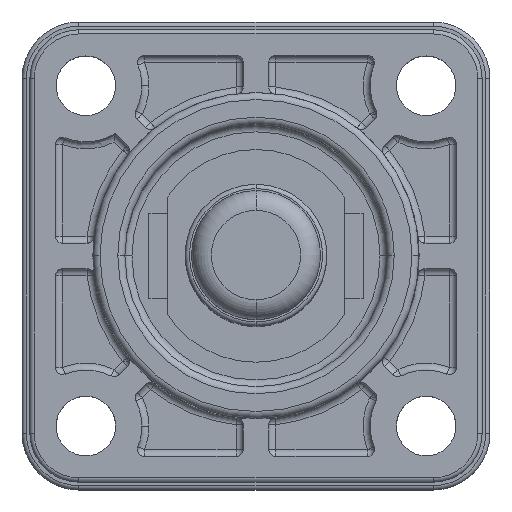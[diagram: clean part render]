
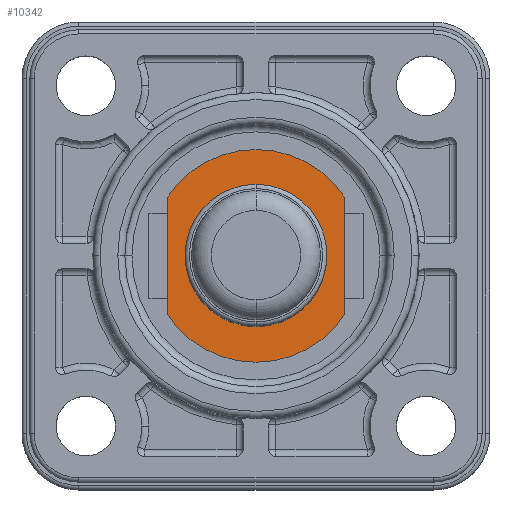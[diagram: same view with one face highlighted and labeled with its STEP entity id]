
A CAD part, top view. The second image highlights one B-rep face of the part: STEP entity #10342.
In plain terms, the highlighted planar face has unit normal (0, 0, 1).
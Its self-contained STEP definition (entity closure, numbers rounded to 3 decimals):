
#76 = CARTESIAN_POINT ( 'NONE',  ( 0.795, -8.92, 1.75 ) ) ;
#77 = DIRECTION ( 'NONE',  ( 0., 0., -1. ) ) ;
#78 = DIRECTION ( 'NONE',  ( 0., 1., 0. ) ) ;
#1374 = EDGE_CURVE ( 'NONE', #2390, #2474, #6020, .T. ) ;
#1455 = EDGE_CURVE ( 'NONE', #2309, #2310, #6263, .T. ) ;
#1749 = AXIS2_PLACEMENT_3D ( 'NONE', #12088, #12089, #12090 ) ;
#1923 = AXIS2_PLACEMENT_3D ( 'NONE', #9274, #9278, #9279 ) ;
#1940 = AXIS2_PLACEMENT_3D ( 'NONE', #9289, #9290, #9291 ) ;
#2133 = AXIS2_PLACEMENT_3D ( 'NONE', #9271, #9272, #9273 ) ;
#2309 = VERTEX_POINT ( 'NONE', #6374 ) ;
#2310 = VERTEX_POINT ( 'NONE', #6375 ) ;
#2378 = VERTEX_POINT ( 'NONE', #6443 ) ;
#2386 = VERTEX_POINT ( 'NONE', #6451 ) ;
#2387 = VERTEX_POINT ( 'NONE', #6452 ) ;
#2390 = VERTEX_POINT ( 'NONE', #6455 ) ;
#2474 = VERTEX_POINT ( 'NONE', #6538 ) ;
#5079 = EDGE_CURVE ( 'NONE', #2386, #2387, #11519, .T. ) ;
#5562 = ORIENTED_EDGE ( 'NONE', *, *, #1374, .F. ) ;
#5626 = ORIENTED_EDGE ( 'NONE', *, *, #10073, .F. ) ;
#5644 = ORIENTED_EDGE ( 'NONE', *, *, #5079, .F. ) ;
#5689 = ORIENTED_EDGE ( 'NONE', *, *, #6653, .F. ) ;
#5824 = ORIENTED_EDGE ( 'NONE', *, *, #6651, .F. ) ;
#5911 = ORIENTED_EDGE ( 'NONE', *, *, #1455, .F. ) ;
#5941 = ORIENTED_EDGE ( 'NONE', *, *, #6659, .F. ) ;
#6020 = LINE ( 'NONE', #6021, #7301 ) ;
#6021 = CARTESIAN_POINT ( 'NONE',  ( -5.455, -13.066, 1.75 ) ) ;
#6022 = DIRECTION ( 'NONE',  ( 0., 1., 0. ) ) ;
#6263 = LINE ( 'NONE', #6264, #7302 ) ;
#6264 = CARTESIAN_POINT ( 'NONE',  ( 7.045, -13.066, 1.75 ) ) ;
#6265 = DIRECTION ( 'NONE',  ( 0., -1., 0. ) ) ;
#6374 = CARTESIAN_POINT ( 'NONE',  ( 7.045, -4.774, 1.75 ) ) ;
#6375 = CARTESIAN_POINT ( 'NONE',  ( 7.045, -13.066, 1.75 ) ) ;
#6443 = CARTESIAN_POINT ( 'NONE',  ( 0.795, -16.42, 1.75 ) ) ;
#6451 = CARTESIAN_POINT ( 'NONE',  ( 0.795, -13.92, 1.75 ) ) ;
#6452 = CARTESIAN_POINT ( 'NONE',  ( 0.795, -3.92, 1.75 ) ) ;
#6455 = CARTESIAN_POINT ( 'NONE',  ( -5.455, -13.066, 1.75 ) ) ;
#6538 = CARTESIAN_POINT ( 'NONE',  ( -5.455, -4.774, 1.75 ) ) ;
#6651 = EDGE_CURVE ( 'NONE', #2387, #2386, #8055, .T. ) ;
#6653 = EDGE_CURVE ( 'NONE', #2474, #2309, #8105, .T. ) ;
#6659 = EDGE_CURVE ( 'NONE', #2310, #2378, #8137, .T. ) ;
#6959 = AXIS2_PLACEMENT_3D ( 'NONE', #76, #77, #78 ) ;
#7301 = VECTOR ( 'NONE', #6022, 1000. ) ;
#7302 = VECTOR ( 'NONE', #6265, 1000. ) ;
#8033 = CIRCLE ( 'NONE', #6959, 7.5 ) ;
#8055 = CIRCLE ( 'NONE', #2133, 5. ) ;
#8105 = CIRCLE ( 'NONE', #1923, 7.5 ) ;
#8137 = CIRCLE ( 'NONE', #1940, 7.5 ) ;
#8173 = EDGE_LOOP ( 'NONE', ( #5941, #5911, #5689, #5562, #5626 ) ) ;
#8310 = EDGE_LOOP ( 'NONE', ( #5824, #5644 ) ) ;
#9271 = CARTESIAN_POINT ( 'NONE',  ( 0.795, -8.92, 1.75 ) ) ;
#9272 = DIRECTION ( 'NONE',  ( 0., 0., 1. ) ) ;
#9273 = DIRECTION ( 'NONE',  ( 0., 1., 0. ) ) ;
#9274 = CARTESIAN_POINT ( 'NONE',  ( 0.795, -8.92, 1.75 ) ) ;
#9278 = DIRECTION ( 'NONE',  ( 0., 0., -1. ) ) ;
#9279 = DIRECTION ( 'NONE',  ( 0., 1., 0. ) ) ;
#9289 = CARTESIAN_POINT ( 'NONE',  ( 0.795, -8.92, 1.75 ) ) ;
#9290 = DIRECTION ( 'NONE',  ( 0., 0., -1. ) ) ;
#9291 = DIRECTION ( 'NONE',  ( 0., 1., 0. ) ) ;
#9580 = PLANE ( 'NONE',  #11381 ) ;
#9581 = CARTESIAN_POINT ( 'NONE',  ( 0.795, -8.92, 1.75 ) ) ;
#9582 = DIRECTION ( 'NONE',  ( 0., 0., -1. ) ) ;
#9583 = DIRECTION ( 'NONE',  ( 0., 1., 0. ) ) ;
#10073 = EDGE_CURVE ( 'NONE', #2378, #2390, #8033, .T. ) ;
#10342 = ADVANCED_FACE ( 'NONE', ( #11367, #11378 ), #9580, .F. ) ;
#11367 = FACE_OUTER_BOUND ( 'NONE', #8173, .T. ) ;
#11378 = FACE_BOUND ( 'NONE', #8310, .T. ) ;
#11381 = AXIS2_PLACEMENT_3D ( 'NONE', #9581, #9582, #9583 ) ;
#11519 = CIRCLE ( 'NONE', #1749, 5. ) ;
#12088 = CARTESIAN_POINT ( 'NONE',  ( 0.795, -8.92, 1.75 ) ) ;
#12089 = DIRECTION ( 'NONE',  ( 0., 0., 1. ) ) ;
#12090 = DIRECTION ( 'NONE',  ( 0., 1., 0. ) ) ;
